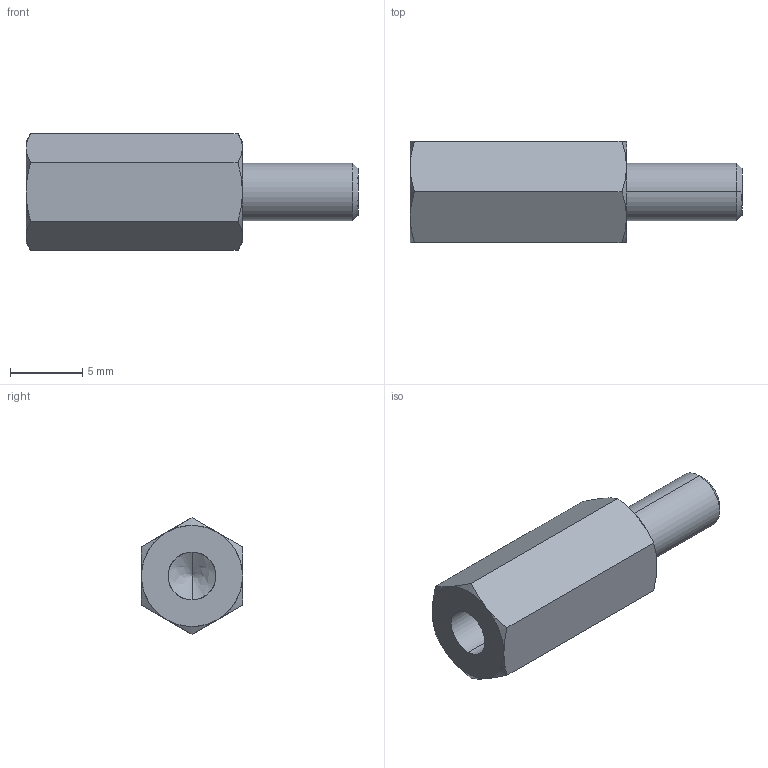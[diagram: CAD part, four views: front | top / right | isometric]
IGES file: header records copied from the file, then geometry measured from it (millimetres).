
Start section: SolidWorks IGES file using analytic representation for surfaces
Global section: file name: C:\Users\render1\Desktop\P0185_IGES\P0185.04-15.igs; native system: SolidWorks 2009; preprocessor: SolidWorks 2009; author: render1; date: 130627.112037; units: millimetre
Bounding box: 23 x 7 x 8.08 mm (x, y, z)
Surface area: 626.7 mm2 (no closed solid volume)
Topology: 0 solids, 0 shells, 29 faces, 320 edges, 318 vertices
Faces by surface type: revolution 20, bspline 9
